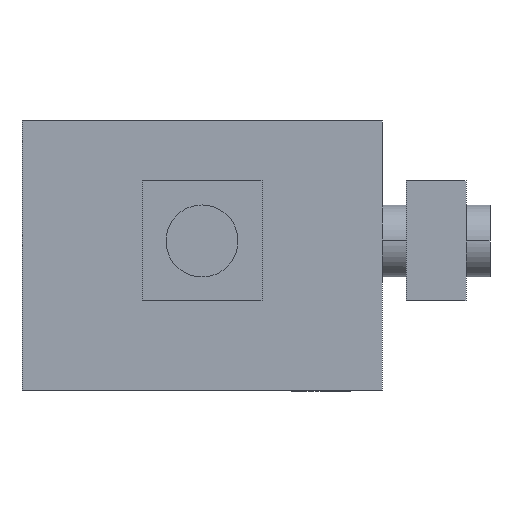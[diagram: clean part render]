
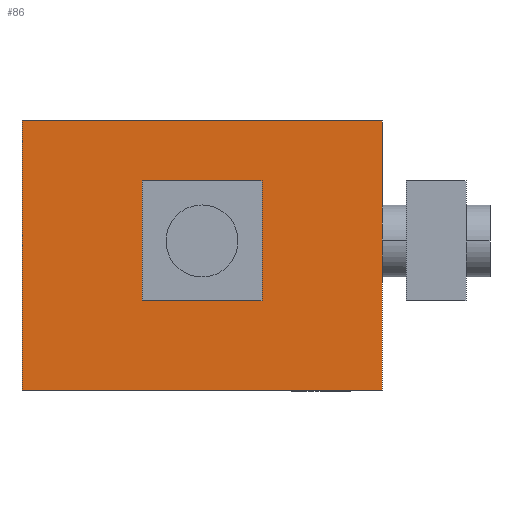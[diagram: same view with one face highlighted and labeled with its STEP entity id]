
A CAD part, left-side view. The second image highlights one B-rep face of the part: STEP entity #86.
In plain terms, the highlighted planar face has unit normal (-1, 0, 0).
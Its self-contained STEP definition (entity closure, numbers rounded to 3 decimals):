
#35=FACE_BOUND($,#220,.T.);
#86=ADVANCED_FACE($,(#146,#35),#791,.T.);
#146=FACE_OUTER_BOUND($,#219,.T.);
#219=EDGE_LOOP($,(#457,#458,#459,#460));
#220=EDGE_LOOP($,(#461,#462));
#457=ORIENTED_EDGE($,*,*,#653,.T.);
#458=ORIENTED_EDGE($,*,*,#651,.T.);
#459=ORIENTED_EDGE($,*,*,#652,.T.);
#460=ORIENTED_EDGE($,*,*,#634,.F.);
#461=ORIENTED_EDGE($,*,*,#589,.T.);
#462=ORIENTED_EDGE($,*,*,#649,.T.);
#589=EDGE_CURVE($,#713,#715,#853,.T.);
#634=EDGE_CURVE($,#748,#749,#940,.T.);
#649=EDGE_CURVE($,#715,#713,#870,.T.);
#651=EDGE_CURVE($,#760,#761,#954,.T.);
#652=EDGE_CURVE($,#761,#749,#955,.T.);
#653=EDGE_CURVE($,#748,#760,#956,.T.);
#713=VERTEX_POINT($,#2474);
#715=VERTEX_POINT($,#2476);
#748=VERTEX_POINT($,#2509);
#749=VERTEX_POINT($,#2510);
#760=VERTEX_POINT($,#2521);
#761=VERTEX_POINT($,#2522);
#791=PLANE($,#1085);
#853=(
BOUNDED_CURVE()
B_SPLINE_CURVE(2,(#1515,#1516,#1517,#1518,#1519),.UNSPECIFIED.,.F.,.F.)
B_SPLINE_CURVE_WITH_KNOTS((3,2,3),(0.,5.498,10.996),
.UNSPECIFIED.)
CURVE()
GEOMETRIC_REPRESENTATION_ITEM()
RATIONAL_B_SPLINE_CURVE((1.,0.707,1.,0.707,1.))
REPRESENTATION_ITEM($)
);
#870=(
BOUNDED_CURVE()
B_SPLINE_CURVE(2,(#2262,#2263,#2264,#2265,#2266),.UNSPECIFIED.,.F.,.F.)
B_SPLINE_CURVE_WITH_KNOTS((3,2,3),(0.,5.498,10.996),
.UNSPECIFIED.)
CURVE()
GEOMETRIC_REPRESENTATION_ITEM()
RATIONAL_B_SPLINE_CURVE((1.,0.707,1.,0.707,1.))
REPRESENTATION_ITEM($)
);
#940=B_SPLINE_CURVE_WITH_KNOTS($,1,(#2153,#2154),.UNSPECIFIED.,.F.,.F.,(2,
2),(-30.,0.),.UNSPECIFIED.);
#954=B_SPLINE_CURVE_WITH_KNOTS($,1,(#2272,#2273),.UNSPECIFIED.,.F.,.F.,(2,
2),(0.,30.),.UNSPECIFIED.);
#955=B_SPLINE_CURVE_WITH_KNOTS($,1,(#2274,#2275),.UNSPECIFIED.,.F.,.F.,(2,
2),(-22.5,0.),.UNSPECIFIED.);
#956=B_SPLINE_CURVE_WITH_KNOTS($,1,(#2276,#2277),.UNSPECIFIED.,.F.,.F.,(2,
2),(-22.5,0.),.UNSPECIFIED.);
#1085=AXIS2_PLACEMENT_3D($,#2452,#1122,$);
#1122=DIRECTION($,(-1.,0.,0.));
#1515=CARTESIAN_POINT($,(-5.478,10.689,16.));
#1516=CARTESIAN_POINT($,(-5.478,7.189,16.));
#1517=CARTESIAN_POINT($,(-5.478,7.189,12.5));
#1518=CARTESIAN_POINT($,(-5.478,7.189,9.));
#1519=CARTESIAN_POINT($,(-5.478,10.689,9.));
#2153=CARTESIAN_POINT($,(-5.478,25.689,22.5));
#2154=CARTESIAN_POINT($,(-5.478,-4.311,22.5));
#2262=CARTESIAN_POINT($,(-5.478,10.689,9.));
#2263=CARTESIAN_POINT($,(-5.478,14.189,9.));
#2264=CARTESIAN_POINT($,(-5.478,14.189,12.5));
#2265=CARTESIAN_POINT($,(-5.478,14.189,16.));
#2266=CARTESIAN_POINT($,(-5.478,10.689,16.));
#2272=CARTESIAN_POINT($,(-5.478,25.689,0.));
#2273=CARTESIAN_POINT($,(-5.478,-4.311,0.));
#2274=CARTESIAN_POINT($,(-5.478,-4.311,0.));
#2275=CARTESIAN_POINT($,(-5.478,-4.311,22.5));
#2276=CARTESIAN_POINT($,(-5.478,25.689,22.5));
#2277=CARTESIAN_POINT($,(-5.478,25.689,0.));
#2452=CARTESIAN_POINT($,(-5.478,25.689,0.));
#2474=CARTESIAN_POINT($,(-5.478,10.689,16.));
#2476=CARTESIAN_POINT($,(-5.478,10.689,9.));
#2509=CARTESIAN_POINT($,(-5.478,25.689,22.5));
#2510=CARTESIAN_POINT($,(-5.478,-4.311,22.5));
#2521=CARTESIAN_POINT($,(-5.478,25.689,0.));
#2522=CARTESIAN_POINT($,(-5.478,-4.311,0.));
